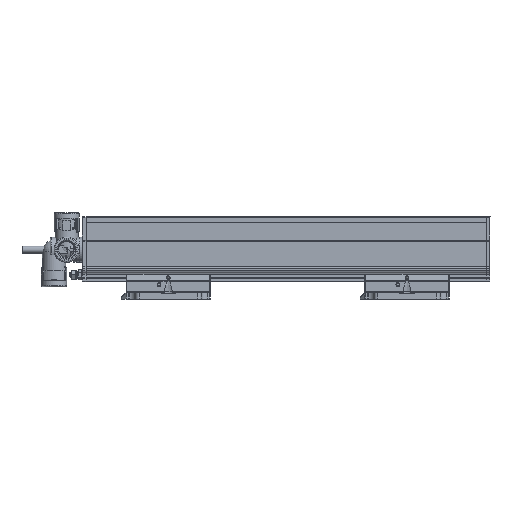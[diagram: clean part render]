
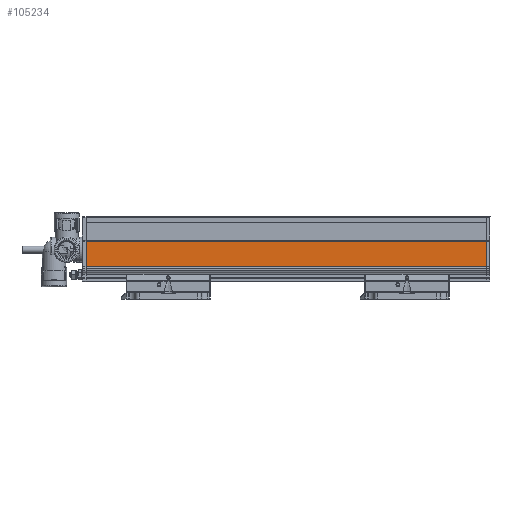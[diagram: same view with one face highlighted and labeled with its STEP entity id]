
A CAD part, front view. The second image highlights one B-rep face of the part: STEP entity #105234.
In plain terms, the highlighted planar face has unit normal (0, -1, 0) as drawn and (-1, 0, 0) by its records, which use the part's own axes.
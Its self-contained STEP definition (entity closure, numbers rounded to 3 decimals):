
#1447=VECTOR('',#69410,1.);
#1482=VECTOR('',#69529,1.);
#1519=VECTOR('',#69642,1.);
#1520=VECTOR('',#69645,1.);
#4215=LINE('',#79487,#1447);
#4250=LINE('',#79637,#1482);
#4287=LINE('',#79714,#1519);
#4288=LINE('',#79716,#1520);
#45473=PLANE('',#101545);
#46635=ORIENTED_EDGE('',*,*,#60421,.F.);
#46636=ORIENTED_EDGE('',*,*,#60381,.F.);
#46637=ORIENTED_EDGE('',*,*,#60420,.T.);
#46638=ORIENTED_EDGE('',*,*,#60306,.F.);
#57294=VERTEX_POINT('',#79484);
#57295=VERTEX_POINT('',#79486);
#57367=VERTEX_POINT('',#79634);
#57368=VERTEX_POINT('',#79636);
#60306=EDGE_CURVE('',#57294,#57295,#4215,.T.);
#60381=EDGE_CURVE('',#57367,#57368,#4250,.T.);
#60420=EDGE_CURVE('',#57367,#57295,#4287,.T.);
#60421=EDGE_CURVE('',#57368,#57294,#4288,.T.);
#65045=EDGE_LOOP('',(#46635,#46636,#46637,#46638));
#67221=FACE_BOUND('',#65045,.T.);
#69410=DIRECTION('',(0.,-20.3,0.));
#69529=DIRECTION('',(0.,20.3,0.));
#69642=DIRECTION('',(0.,0.,318.4));
#69643=DIRECTION('',(-1.,0.,0.));
#69644=DIRECTION('',(0.,1.,0.));
#69645=DIRECTION('',(0.,0.,318.4));
#79484=CARTESIAN_POINT('',(49.046,34.279,318.4));
#79486=CARTESIAN_POINT('',(49.046,13.979,318.4));
#79487=CARTESIAN_POINT('',(49.046,34.279,318.4));
#79634=CARTESIAN_POINT('',(49.046,13.979,0.));
#79636=CARTESIAN_POINT('',(49.046,34.279,0.));
#79637=CARTESIAN_POINT('',(49.046,13.979,0.));
#79714=CARTESIAN_POINT('',(49.046,13.979,0.));
#79715=CARTESIAN_POINT('',(49.046,34.279,0.));
#79716=CARTESIAN_POINT('',(49.046,34.279,0.));
#101545=AXIS2_PLACEMENT_3D('',#79715,#69643,#69644);
#105234=ADVANCED_FACE('',(#67221),#45473,.T.);
